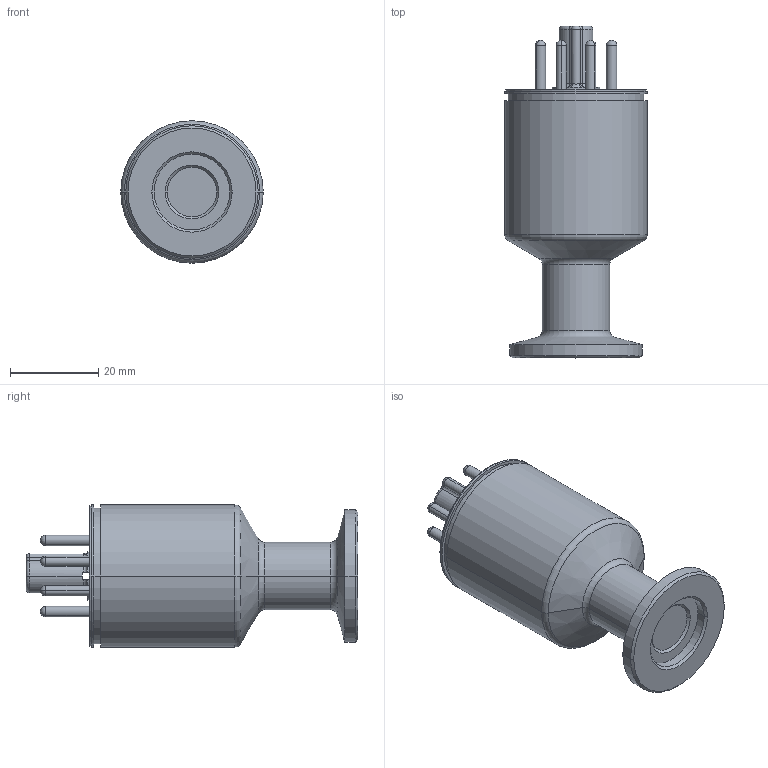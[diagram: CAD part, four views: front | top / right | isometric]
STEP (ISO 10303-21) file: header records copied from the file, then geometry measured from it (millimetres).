
FILE_DESCRIPTION (( 'STEP AP214' ), '1' );
FILE_NAME ('2-2126-030_defeature.STEP', '2023-06-30T16:59:25', ( '' ), ( '' ), 'SwSTEP 2.0', 'SolidWorks 2022', '' );
FILE_SCHEMA (( 'AUTOMOTIVE_DESIGN' ));
Length unit declared in the file: millimetre
Products named in the file (1): 2-2126-030_defeature
Bounding box: 32.26 x 75.18 x 32.26 mm (x, y, z)
Volume: 36236.7 mm3; surface area: 8650 mm2
Topology: 1 solids, 1 shells, 114 faces, 281 edges, 172 vertices
Faces by surface type: cylinder 38, plane 24, torus 21, sphere 18, cone 12, bspline 1
Entity records: 4581 total; most frequent: CARTESIAN_POINT 668, DIRECTION 628, ORIENTED_EDGE 494, AXIS2_PLACEMENT_3D 280, EDGE_CURVE 247, CIRCLE 166, VERTEX_POINT 156, EDGE_LOOP 137
